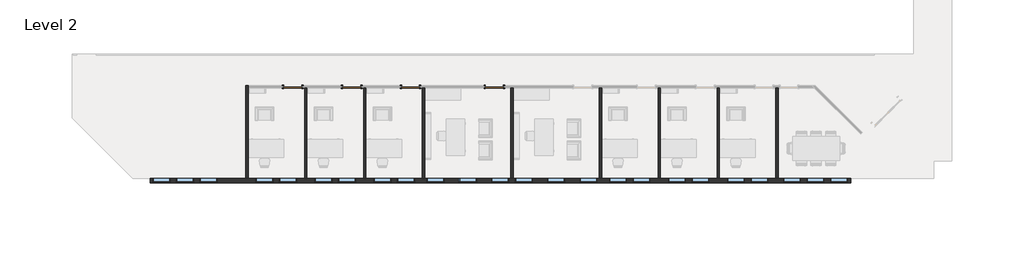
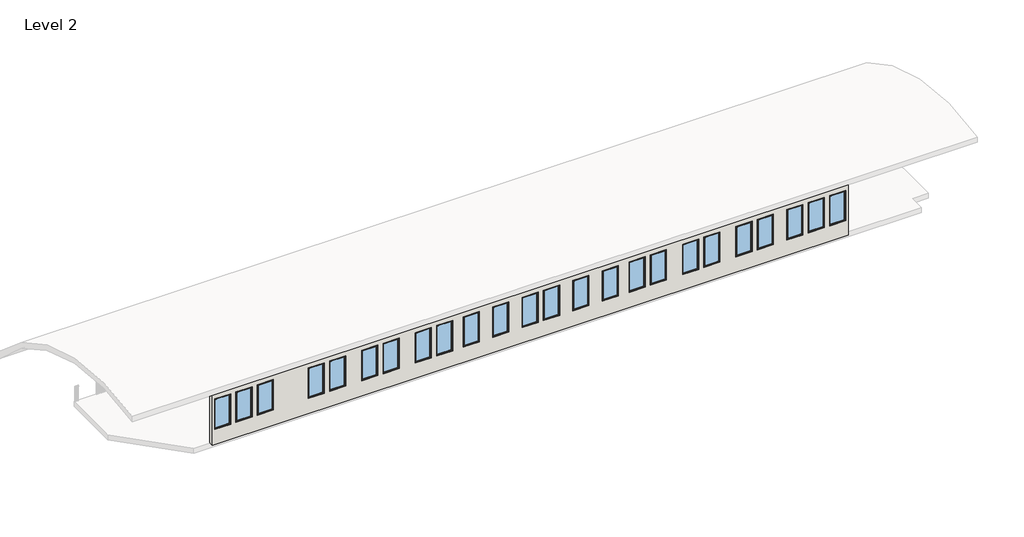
# One storey, part 1 of 2: 24 windows, 10 walls, 4 doors.
"""IFC4 building model written with IfcOpenShell, lengths in millimetres."""

from ifc_helpers import new_model, si_unit, frame, origin, place, context, project, spatial, polyline, outline, extrude, faceted_brep, transform, mapped, element, save
from components import door_eb9f8b14, window_01d578b7

model = new_model("IFC4")

# Units and contexts
model_context = context("Model", 3, world=origin())
ifc_project = project(units=[si_unit("LENGTHUNIT", "METRE", prefix="MILLI")], contexts=[model_context])

# Site, building, storey
site = spatial("IfcSite", under=ifc_project)
building = spatial("IfcBuilding", under=site)
storey = spatial("IfcBuildingStorey", under=building, Name="Level 2", Elevation=3657.6)

# Doors
placement = place(None, origin())
door_shape = door_eb9f8b14(model_context)
element("IfcDoor", 1, ObjectType="Single-Flush : 36\" x 84\"", at=placement, inside=storey, context=model_context, shape_type="MappedRepresentation", body=[
    mapped(door_shape, transform((-596.7228906, 2425.2975872, 3657.6), x_axis=(1.0, 0.0, 0.0), y_axis=(0.0, 1.0, 0.0), z_axis=(0.0, 0.0, 1.0))),
])
element("IfcDoor", 2, ObjectType="Single-Flush : 36\" x 84\"", at=placement, inside=storey, context=model_context, shape_type="MappedRepresentation", body=[
    mapped(door_shape, transform((2451.2771094, 2425.2975872, 3657.6), x_axis=(1.0, 0.0, 0.0), y_axis=(0.0, 1.0, 0.0), z_axis=(0.0, 0.0, 1.0))),
])
element("IfcDoor", 3, ObjectType="Single-Flush : 36\" x 84\"", at=placement, inside=storey, context=model_context, shape_type="MappedRepresentation", body=[
    mapped(door_shape, transform((9828.3896094, 2425.2975872, 3657.6), x_axis=(1.0, 0.0, 0.0), y_axis=(0.0, 1.0, 0.0), z_axis=(0.0, 0.0, 1.0))),
])
element("IfcDoor", 4, ObjectType="Single-Flush : 36\" x 84\"", at=placement, inside=storey, context=model_context, shape_type="MappedRepresentation", body=[
    mapped(door_shape, transform((5499.2771094, 2425.2975872, 3657.6), x_axis=(1.0, 0.0, 0.0), y_axis=(0.0, 1.0, 0.0), z_axis=(0.0, 0.0, 1.0))),
])

# Walls
element("IfcWall", 5, ObjectType="Exterior - EIFS on Mtl. Stud", at=placement, inside=storey, context=model_context, shape_type="Brep", body=[
    faceted_brep([(28268.7896094, -2330.8524128, 3657.6), (24520.7021094, -2330.8524128, 3657.6), (24396.8771094, -2330.8524128, 3657.6), (21472.7021094, -2330.8524128, 3657.6), (21348.8771094, -2330.8524128, 3657.6), (18424.7021094, -2330.8524128, 3657.6), (18300.8771094, -2330.8524128, 3657.6), (15376.7021094, -2330.8524128, 3657.6), (15252.8771094, -2330.8524128, 3657.6), (10804.7021094, -2330.8524128, 3657.6), (10680.8771094, -2330.8524128, 3657.6), (6232.7021094, -2330.8524128, 3657.6), (6108.8771094, -2330.8524128, 3657.6), (3184.7021094, -2330.8524128, 3657.6), (3060.8771094, -2330.8524128, 3657.6), (136.7021094, -2330.8524128, 3657.6), (12.8771094, -2330.8524128, 3657.6), (-2911.2978906, -2330.8524128, 3657.6), (-3035.1228906, -2330.8524128, 3657.6), (-7974.408315, -2330.8524128, 3657.6), (-7974.408315, -2330.8524128, 7315.2), (-3035.1228906, -2330.8524128, 7315.2), (-2911.2978906, -2330.8524128, 7315.2), (12.8771094, -2330.8524128, 7315.2), (136.7021094, -2330.8524128, 7315.2), (3060.8771094, -2330.8524128, 7315.2), (3184.7021094, -2330.8524128, 7315.2), (6108.8771094, -2330.8524128, 7315.2), (6232.7021094, -2330.8524128, 7315.2), (10680.8771094, -2330.8524128, 7315.2), (10804.7021094, -2330.8524128, 7315.2), (15252.8771094, -2330.8524128, 7315.2), (15376.7021094, -2330.8524128, 7315.2), (18300.8771094, -2330.8524128, 7315.2), (18424.7021094, -2330.8524128, 7315.2), (21348.8771094, -2330.8524128, 7315.2), (21472.7021094, -2330.8524128, 7315.2), (24396.8771094, -2330.8524128, 7315.2), (24520.7021094, -2330.8524128, 7315.2), (28268.7896094, -2330.8524128, 7315.2), (24763.5896094, -2330.8524128, 6400.8), (24763.5896094, -2330.8524128, 4572.0), (25677.9896094, -2330.8524128, 4572.0), (25677.9896094, -2330.8524128, 6400.8), (27201.9896094, -2330.8524128, 6400.8), (27201.9896094, -2330.8524128, 4572.0), (28116.3896094, -2330.8524128, 4572.0), (28116.3896094, -2330.8524128, 6400.8), (-7850.0103906, -2330.8524128, 6400.8), (-7850.0103906, -2330.8524128, 4572.0), (-6935.6103906, -2330.8524128, 4572.0), (-6935.6103906, -2330.8524128, 6400.8), (-6630.8103906, -2330.8524128, 6400.8), (-6630.8103906, -2330.8524128, 4572.0), (-5716.4103906, -2330.8524128, 4572.0), (-5716.4103906, -2330.8524128, 6400.8), (-5411.6103906, -2330.8524128, 6400.8), (-5411.6103906, -2330.8524128, 4572.0), (-4497.2103906, -2330.8524128, 4572.0), (-4497.2103906, -2330.8524128, 6400.8), (-2516.0103906, -2330.8524128, 6400.8), (-2516.0103906, -2330.8524128, 4572.0), (-1601.6103906, -2330.8524128, 4572.0), (-1601.6103906, -2330.8524128, 6400.8), (25982.7896094, -2330.8524128, 6400.8), (25982.7896094, -2330.8524128, 4572.0), (26897.1896094, -2330.8524128, 4572.0), (26897.1896094, -2330.8524128, 6400.8), (-1296.8103906, -2330.8524128, 6400.8), (-1296.8103906, -2330.8524128, 4572.0), (-382.4103906, -2330.8524128, 4572.0), (-382.4103906, -2330.8524128, 6400.8), (6323.1896094, -2330.8524128, 6400.8), (6323.1896094, -2330.8524128, 4572.0), (7237.5896094, -2330.8524128, 4572.0), (7237.5896094, -2330.8524128, 6400.8), (7999.5896094, -2330.8524128, 6400.8), (7999.5896094, -2330.8524128, 4572.0), (8913.9896094, -2330.8524128, 4572.0), (8913.9896094, -2330.8524128, 6400.8), (9675.9896094, -2330.8524128, 6400.8), (9675.9896094, -2330.8524128, 4572.0), (10590.3896094, -2330.8524128, 4572.0), (10590.3896094, -2330.8524128, 6400.8), (10895.1896094, -2330.8524128, 6400.8), (10895.1896094, -2330.8524128, 4572.0), (11809.5896094, -2330.8524128, 4572.0), (11809.5896094, -2330.8524128, 6400.8), (12571.5896094, -2330.8524128, 6400.8), (12571.5896094, -2330.8524128, 4572.0), (13485.9896094, -2330.8524128, 4572.0), (13485.9896094, -2330.8524128, 6400.8), (14247.9896094, -2330.8524128, 6400.8), (14247.9896094, -2330.8524128, 4572.0), (15162.3896094, -2330.8524128, 4572.0), (15162.3896094, -2330.8524128, 6400.8), (531.9896094, -2330.8524128, 6400.8), (531.9896094, -2330.8524128, 4572.0), (1446.3896094, -2330.8524128, 4572.0), (1446.3896094, -2330.8524128, 6400.8), (1751.1896094, -2330.8524128, 6400.8), (1751.1896094, -2330.8524128, 4572.0), (2665.5896094, -2330.8524128, 4572.0), (2665.5896094, -2330.8524128, 6400.8), (3579.9896094, -2330.8524128, 6400.8), (3579.9896094, -2330.8524128, 4572.0), (4494.3896094, -2330.8524128, 4572.0), (4494.3896094, -2330.8524128, 6400.8), (4799.1896094, -2330.8524128, 6400.8), (4799.1896094, -2330.8524128, 4572.0), (5713.5896094, -2330.8524128, 4572.0), (5713.5896094, -2330.8524128, 6400.8), (15771.9896094, -2330.8524128, 6400.8), (15771.9896094, -2330.8524128, 4572.0), (16686.3896094, -2330.8524128, 4572.0), (16686.3896094, -2330.8524128, 6400.8), (16991.1896094, -2330.8524128, 6400.8), (16991.1896094, -2330.8524128, 4572.0), (17905.5896094, -2330.8524128, 4572.0), (17905.5896094, -2330.8524128, 6400.8), (18819.9896094, -2330.8524128, 6400.8), (18819.9896094, -2330.8524128, 4572.0), (19734.3896094, -2330.8524128, 4572.0), (19734.3896094, -2330.8524128, 6400.8), (20039.1896094, -2330.8524128, 6400.8), (20039.1896094, -2330.8524128, 4572.0), (20953.5896094, -2330.8524128, 4572.0), (20953.5896094, -2330.8524128, 6400.8), (21867.9896094, -2330.8524128, 6400.8), (21867.9896094, -2330.8524128, 4572.0), (22782.3896094, -2330.8524128, 4572.0), (22782.3896094, -2330.8524128, 6400.8), (23087.1896094, -2330.8524128, 6400.8), (23087.1896094, -2330.8524128, 4572.0), (24001.5896094, -2330.8524128, 4572.0), (24001.5896094, -2330.8524128, 6400.8), (-7974.408315, -2572.1524128, 3657.6), (28268.7896094, -2572.1524128, 3657.6), (28268.7896094, -2572.1524128, 7315.2), (-7974.408315, -2572.1524128, 7315.2), (24763.5896094, -2572.1524128, 4572.0), (24763.5896094, -2572.1524128, 6400.8), (25677.9896094, -2572.1524128, 6400.8), (25677.9896094, -2572.1524128, 4572.0), (27201.9896094, -2572.1524128, 4572.0), (27201.9896094, -2572.1524128, 6400.8), (28116.3896094, -2572.1524128, 6400.8), (28116.3896094, -2572.1524128, 4572.0), (-7850.0103906, -2572.1524128, 4572.0), (-7850.0103906, -2572.1524128, 6400.8), (-6935.6103906, -2572.1524128, 6400.8), (-6935.6103906, -2572.1524128, 4572.0), (-6630.8103906, -2572.1524128, 4572.0), (-6630.8103906, -2572.1524128, 6400.8), (-5716.4103906, -2572.1524128, 6400.8), (-5716.4103906, -2572.1524128, 4572.0), (-5411.6103906, -2572.1524128, 4572.0), (-5411.6103906, -2572.1524128, 6400.8), (-4497.2103906, -2572.1524128, 6400.8), (-4497.2103906, -2572.1524128, 4572.0), (-2516.0103906, -2572.1524128, 4572.0), (-2516.0103906, -2572.1524128, 6400.8), (-1601.6103906, -2572.1524128, 6400.8), (-1601.6103906, -2572.1524128, 4572.0), (25982.7896094, -2572.1524128, 4572.0), (25982.7896094, -2572.1524128, 6400.8), (26897.1896094, -2572.1524128, 6400.8), (26897.1896094, -2572.1524128, 4572.0), (-1296.8103906, -2572.1524128, 4572.0), (-1296.8103906, -2572.1524128, 6400.8), (-382.4103906, -2572.1524128, 6400.8), (-382.4103906, -2572.1524128, 4572.0), (6323.1896094, -2572.1524128, 6400.8), (7237.5896094, -2572.1524128, 6400.8), (7237.5896094, -2572.1524128, 4572.0), (6323.1896094, -2572.1524128, 4572.0), (7999.5896094, -2572.1524128, 6400.8), (8913.9896094, -2572.1524128, 6400.8), (8913.9896094, -2572.1524128, 4572.0), (7999.5896094, -2572.1524128, 4572.0), (9675.9896094, -2572.1524128, 6400.8), (10590.3896094, -2572.1524128, 6400.8), (10590.3896094, -2572.1524128, 4572.0), (9675.9896094, -2572.1524128, 4572.0), (10895.1896094, -2572.1524128, 6400.8), (11809.5896094, -2572.1524128, 6400.8), (11809.5896094, -2572.1524128, 4572.0), (10895.1896094, -2572.1524128, 4572.0), (12571.5896094, -2572.1524128, 6400.8), (13485.9896094, -2572.1524128, 6400.8), (13485.9896094, -2572.1524128, 4572.0), (12571.5896094, -2572.1524128, 4572.0), (14247.9896094, -2572.1524128, 6400.8), (15162.3896094, -2572.1524128, 6400.8), (15162.3896094, -2572.1524128, 4572.0), (14247.9896094, -2572.1524128, 4572.0), (531.9896094, -2572.1524128, 6400.8), (1446.3896094, -2572.1524128, 6400.8), (1446.3896094, -2572.1524128, 4572.0), (531.9896094, -2572.1524128, 4572.0), (1751.1896094, -2572.1524128, 6400.8), (2665.5896094, -2572.1524128, 6400.8), (2665.5896094, -2572.1524128, 4572.0), (1751.1896094, -2572.1524128, 4572.0), (3579.9896094, -2572.1524128, 6400.8), (4494.3896094, -2572.1524128, 6400.8), (4494.3896094, -2572.1524128, 4572.0), (3579.9896094, -2572.1524128, 4572.0), (4799.1896094, -2572.1524128, 6400.8), (5713.5896094, -2572.1524128, 6400.8), (5713.5896094, -2572.1524128, 4572.0), (4799.1896094, -2572.1524128, 4572.0), (15771.9896094, -2572.1524128, 6400.8), (16686.3896094, -2572.1524128, 6400.8), (16686.3896094, -2572.1524128, 4572.0), (15771.9896094, -2572.1524128, 4572.0), (16991.1896094, -2572.1524128, 6400.8), (17905.5896094, -2572.1524128, 6400.8), (17905.5896094, -2572.1524128, 4572.0), (16991.1896094, -2572.1524128, 4572.0), (18819.9896094, -2572.1524128, 6400.8), (19734.3896094, -2572.1524128, 6400.8), (19734.3896094, -2572.1524128, 4572.0), (18819.9896094, -2572.1524128, 4572.0), (20039.1896094, -2572.1524128, 6400.8), (20953.5896094, -2572.1524128, 6400.8), (20953.5896094, -2572.1524128, 4572.0), (20039.1896094, -2572.1524128, 4572.0), (21867.9896094, -2572.1524128, 6400.8), (22782.3896094, -2572.1524128, 6400.8), (22782.3896094, -2572.1524128, 4572.0), (21867.9896094, -2572.1524128, 4572.0), (23087.1896094, -2572.1524128, 6400.8), (24001.5896094, -2572.1524128, 6400.8), (24001.5896094, -2572.1524128, 4572.0), (23087.1896094, -2572.1524128, 4572.0)], [[[0, 1, 2, 3, 4, 5, 6, 7, 8, 9, 10, 11, 12, 13, 14, 15, 16, 17, 18, 19, 20, 21, 22, 23, 24, 25, 26, 27, 28, 29, 30, 31, 32, 33, 34, 35, 36, 37, 38, 39], [40, 41, 42, 43], [44, 45, 46, 47], [48, 49, 50, 51], [52, 53, 54, 55], [56, 57, 58, 59], [60, 61, 62, 63], [64, 65, 66, 67], [68, 69, 70, 71], [72, 73, 74, 75], [76, 77, 78, 79], [80, 81, 82, 83], [84, 85, 86, 87], [88, 89, 90, 91], [92, 93, 94, 95], [96, 97, 98, 99], [100, 101, 102, 103], [104, 105, 106, 107], [108, 109, 110, 111], [112, 113, 114, 115], [116, 117, 118, 119], [120, 121, 122, 123], [124, 125, 126, 127], [128, 129, 130, 131], [132, 133, 134, 135]], [[136, 137, 138, 139], [140, 141, 142, 143], [144, 145, 146, 147], [148, 149, 150, 151], [152, 153, 154, 155], [156, 157, 158, 159], [160, 161, 162, 163], [164, 165, 166, 167], [168, 169, 170, 171], [172, 173, 174, 175], [176, 177, 178, 179], [180, 181, 182, 183], [184, 185, 186, 187], [188, 189, 190, 191], [192, 193, 194, 195], [196, 197, 198, 199], [200, 201, 202, 203], [204, 205, 206, 207], [208, 209, 210, 211], [212, 213, 214, 215], [216, 217, 218, 219], [220, 221, 222, 223], [224, 225, 226, 227], [228, 229, 230, 231], [232, 233, 234, 235]], [[19, 18, 17, 16, 15, 14, 13, 12, 11, 10, 9, 8, 7, 6, 5, 4, 3, 2, 1, 0, 137, 136]], [[20, 19, 136, 139]], [[39, 38, 37, 36, 35, 34, 33, 32, 31, 30, 29, 28, 27, 26, 25, 24, 23, 22, 21, 20, 139, 138]], [[137, 0, 39, 138]], [[41, 40, 141, 140]], [[42, 41, 140, 143]], [[43, 42, 143, 142]], [[40, 43, 142, 141]], [[45, 44, 145, 144]], [[46, 45, 144, 147]], [[47, 46, 147, 146]], [[44, 47, 146, 145]], [[49, 48, 149, 148]], [[50, 49, 148, 151]], [[51, 50, 151, 150]], [[48, 51, 150, 149]], [[53, 52, 153, 152]], [[54, 53, 152, 155]], [[55, 54, 155, 154]], [[52, 55, 154, 153]], [[57, 56, 157, 156]], [[58, 57, 156, 159]], [[59, 58, 159, 158]], [[56, 59, 158, 157]], [[61, 60, 161, 160]], [[62, 61, 160, 163]], [[63, 62, 163, 162]], [[60, 63, 162, 161]], [[65, 64, 165, 164]], [[66, 65, 164, 167]], [[67, 66, 167, 166]], [[64, 67, 166, 165]], [[68, 169, 168, 69]], [[69, 168, 171, 70]], [[70, 171, 170, 71]], [[169, 68, 71, 170]], [[73, 72, 172, 175]], [[74, 73, 175, 174]], [[75, 74, 174, 173]], [[72, 75, 173, 172]], [[77, 76, 176, 179]], [[78, 77, 179, 178]], [[79, 78, 178, 177]], [[76, 79, 177, 176]], [[81, 80, 180, 183]], [[82, 81, 183, 182]], [[83, 82, 182, 181]], [[80, 83, 181, 180]], [[85, 84, 184, 187]], [[86, 85, 187, 186]], [[87, 86, 186, 185]], [[84, 87, 185, 184]], [[89, 88, 188, 191]], [[90, 89, 191, 190]], [[91, 90, 190, 189]], [[88, 91, 189, 188]], [[93, 92, 192, 195]], [[94, 93, 195, 194]], [[95, 94, 194, 193]], [[92, 95, 193, 192]], [[97, 96, 196, 199]], [[98, 97, 199, 198]], [[99, 98, 198, 197]], [[96, 99, 197, 196]], [[101, 100, 200, 203]], [[102, 101, 203, 202]], [[103, 102, 202, 201]], [[100, 103, 201, 200]], [[105, 104, 204, 207]], [[106, 105, 207, 206]], [[107, 106, 206, 205]], [[104, 107, 205, 204]], [[109, 108, 208, 211]], [[110, 109, 211, 210]], [[111, 110, 210, 209]], [[108, 111, 209, 208]], [[113, 112, 212, 215]], [[114, 113, 215, 214]], [[115, 114, 214, 213]], [[112, 115, 213, 212]], [[117, 116, 216, 219]], [[118, 117, 219, 218]], [[119, 118, 218, 217]], [[116, 119, 217, 216]], [[121, 120, 220, 223]], [[122, 121, 223, 222]], [[123, 122, 222, 221]], [[120, 123, 221, 220]], [[125, 124, 224, 227]], [[126, 125, 227, 226]], [[127, 126, 226, 225]], [[124, 127, 225, 224]], [[129, 128, 228, 231]], [[130, 129, 231, 230]], [[131, 130, 230, 229]], [[128, 131, 229, 228]], [[133, 132, 232, 235]], [[134, 133, 235, 234]], [[135, 134, 234, 233]], [[132, 135, 233, 232]]]),
])
element("IfcWall", 6, ObjectType="Interior - 4 7/8\" Partition (1-hr)", at=placement, inside=storey, context=model_context, shape_type="SweptSolid", body=[
    extrude(outline(polyline([(24520.7021094, 2363.3850872), (24520.7021094, -2330.8524128), (24396.8771094, -2330.8524128), (24396.8771094, 2363.3850872), (24520.7021094, 2363.3850872)])), frame((0.0, 0.0, 3657.6), z_axis=(0.0, 0.0, 1.0), x_axis=(1.0, 0.0, 0.0)), (0.0, 0.0, 1.0), 3657.6),
])
element("IfcWall", 7, ObjectType="Interior - 4 7/8\" Partition (1-hr)", at=placement, inside=storey, context=model_context, shape_type="Brep", body=[
    faceted_brep([(-2911.2978906, -2330.8524128, 3657.6), (-2911.2978906, 2363.3850872, 3657.6), (-2911.2978906, 2487.2100872, 3657.6), (-2911.2978906, 2487.2100872, 7315.2), (-2911.2978906, 2363.3850872, 7315.2), (-2911.2978906, -2330.8524128, 7315.2), (-3035.1228906, -2330.8524128, 3657.6), (-3035.1228906, -2330.8524128, 7315.2), (-3035.1228906, 2487.2100872, 7315.2), (-3035.1228906, 2487.2100872, 3657.6)], [[[0, 1, 2, 3, 4, 5]], [[6, 7, 8, 9]], [[2, 1, 0, 6, 9]], [[5, 4, 3, 8, 7]], [[3, 2, 9, 8]], [[0, 5, 7, 6]]]),
])
element("IfcWall", 8, ObjectType="Interior - 4 7/8\" Partition (1-hr)", at=placement, inside=storey, context=model_context, shape_type="SweptSolid", body=[
    extrude(outline(polyline([(136.7021094, 2363.3850872), (136.7021094, -2330.8524128), (12.8771094, -2330.8524128), (12.8771094, 2363.3850872), (136.7021094, 2363.3850872)])), frame((0.0, 0.0, 3657.6), z_axis=(0.0, 0.0, 1.0), x_axis=(1.0, 0.0, 0.0)), (0.0, 0.0, 1.0), 3657.6),
])
element("IfcWall", 9, ObjectType="Interior - 4 7/8\" Partition (1-hr)", at=placement, inside=storey, context=model_context, shape_type="SweptSolid", body=[
    extrude(outline(polyline([(3184.7021094, 2363.3850872), (3184.7021094, -2330.8524128), (3060.8771094, -2330.8524128), (3060.8771094, 2363.3850872), (3184.7021094, 2363.3850872)])), frame((0.0, 0.0, 3657.6), z_axis=(0.0, 0.0, 1.0), x_axis=(1.0, 0.0, 0.0)), (0.0, 0.0, 1.0), 3657.6),
])
element("IfcWall", 10, ObjectType="Interior - 4 7/8\" Partition (1-hr)", at=placement, inside=storey, context=model_context, shape_type="SweptSolid", body=[
    extrude(outline(polyline([(18424.7021094, 2363.3850872), (18424.7021094, -2330.8524128), (18300.8771094, -2330.8524128), (18300.8771094, 2363.3850872), (18424.7021094, 2363.3850872)])), frame((0.0, 0.0, 3657.6), z_axis=(0.0, 0.0, 1.0), x_axis=(1.0, 0.0, 0.0)), (0.0, 0.0, 1.0), 3657.6),
])
element("IfcWall", 11, ObjectType="Interior - 4 7/8\" Partition (1-hr)", at=placement, inside=storey, context=model_context, shape_type="SweptSolid", body=[
    extrude(outline(polyline([(21472.7021094, 2363.3850872), (21472.7021094, -2330.8524128), (21348.8771094, -2330.8524128), (21348.8771094, 2363.3850872), (21472.7021094, 2363.3850872)])), frame((0.0, 0.0, 3657.6), z_axis=(0.0, 0.0, 1.0), x_axis=(1.0, 0.0, 0.0)), (0.0, 0.0, 1.0), 3657.6),
])
element("IfcWall", 12, ObjectType="Interior - 4 7/8\" Partition (1-hr)", at=placement, inside=storey, context=model_context, shape_type="SweptSolid", body=[
    extrude(outline(polyline([(10804.7021094, 2363.3850872), (10804.7021094, -2330.8524128), (10680.8771094, -2330.8524128), (10680.8771094, 2363.3850872), (10804.7021094, 2363.3850872)])), frame((0.0, 0.0, 3657.6), z_axis=(0.0, 0.0, 1.0), x_axis=(1.0, 0.0, 0.0)), (0.0, 0.0, 1.0), 3657.6),
])
element("IfcWall", 13, ObjectType="Interior - 4 7/8\" Partition (1-hr)", at=placement, inside=storey, context=model_context, shape_type="SweptSolid", body=[
    extrude(outline(polyline([(6232.7021094, 2363.3850872), (6232.7021094, -2330.8524128), (6108.8771094, -2330.8524128), (6108.8771094, 2363.3850872), (6232.7021094, 2363.3850872)])), frame((0.0, 0.0, 3657.6), z_axis=(0.0, 0.0, 1.0), x_axis=(1.0, 0.0, 0.0)), (0.0, 0.0, 1.0), 3657.6),
])
element("IfcWall", 14, ObjectType="Interior - 4 7/8\" Partition (1-hr)", at=placement, inside=storey, context=model_context, shape_type="SweptSolid", body=[
    extrude(outline(polyline([(15376.7021094, 2363.3850872), (15376.7021094, -2330.8524128), (15252.8771094, -2330.8524128), (15252.8771094, 2363.3850872), (15376.7021094, 2363.3850872)])), frame((0.0, 0.0, 3657.6), z_axis=(0.0, 0.0, 1.0), x_axis=(1.0, 0.0, 0.0)), (0.0, 0.0, 1.0), 3657.6),
])

# Windows
window_shape = window_01d578b7(model_context)
element("IfcWindow", 15, ObjectType="Fixed : 36\" x 72\"", at=placement, inside=storey, context=model_context, shape_type="MappedRepresentation", body=[
    mapped(window_shape, transform((25182.6896094, -2451.5024128, 3657.6), x_axis=(-1.0, 0.0, 0.0), y_axis=(0.0, -1.0, 0.0), z_axis=(0.0, 0.0, 1.0))),
])
element("IfcWindow", 16, ObjectType="Fixed : 36\" x 72\"", at=placement, inside=storey, context=model_context, shape_type="MappedRepresentation", body=[
    mapped(window_shape, transform((27621.0896094, -2451.5024128, 3657.6), x_axis=(-1.0, 0.0, 0.0), y_axis=(0.0, -1.0, 0.0), z_axis=(0.0, 0.0, 1.0))),
])
element("IfcWindow", 17, ObjectType="Fixed : 36\" x 72\"", at=placement, inside=storey, context=model_context, shape_type="MappedRepresentation", body=[
    mapped(window_shape, transform((-7430.9103906, -2451.5024128, 3657.6), x_axis=(-1.0, 0.0, 0.0), y_axis=(0.0, -1.0, 0.0), z_axis=(0.0, 0.0, 1.0))),
])
element("IfcWindow", 18, ObjectType="Fixed : 36\" x 72\"", at=placement, inside=storey, context=model_context, shape_type="MappedRepresentation", body=[
    mapped(window_shape, transform((-6211.7103906, -2451.5024128, 3657.6), x_axis=(-1.0, 0.0, 0.0), y_axis=(0.0, -1.0, 0.0), z_axis=(0.0, 0.0, 1.0))),
])
element("IfcWindow", 19, ObjectType="Fixed : 36\" x 72\"", at=placement, inside=storey, context=model_context, shape_type="MappedRepresentation", body=[
    mapped(window_shape, transform((-4992.5103906, -2451.5024128, 3657.6), x_axis=(-1.0, 0.0, 0.0), y_axis=(0.0, -1.0, 0.0), z_axis=(0.0, 0.0, 1.0))),
])
element("IfcWindow", 20, ObjectType="Fixed : 36\" x 72\"", at=placement, inside=storey, context=model_context, shape_type="MappedRepresentation", body=[
    mapped(window_shape, transform((-2096.9103906, -2451.5024128, 3657.6), x_axis=(-1.0, 0.0, 0.0), y_axis=(0.0, -1.0, 0.0), z_axis=(0.0, 0.0, 1.0))),
])
element("IfcWindow", 21, ObjectType="Fixed : 36\" x 72\"", at=placement, inside=storey, context=model_context, shape_type="MappedRepresentation", body=[
    mapped(window_shape, transform((26401.8896094, -2451.5024128, 3657.6), x_axis=(-1.0, 0.0, 0.0), y_axis=(0.0, -1.0, 0.0), z_axis=(0.0, 0.0, 1.0))),
])
element("IfcWindow", 22, ObjectType="Fixed : 36\" x 72\"", at=placement, inside=storey, context=model_context, shape_type="MappedRepresentation", body=[
    mapped(window_shape, transform((-877.7103906, -2451.5024128, 3657.6), x_axis=(-1.0, 0.0, 0.0), y_axis=(0.0, -1.0, 0.0), z_axis=(0.0, 0.0, 1.0))),
])
element("IfcWindow", 23, ObjectType="Fixed : 36\" x 72\"", at=placement, inside=storey, context=model_context, shape_type="MappedRepresentation", body=[
    mapped(window_shape, transform((951.0896094, -2451.5024128, 3657.6), x_axis=(-1.0, 0.0, 0.0), y_axis=(0.0, -1.0, 0.0), z_axis=(0.0, 0.0, 1.0))),
])
element("IfcWindow", 24, ObjectType="Fixed : 36\" x 72\"", at=placement, inside=storey, context=model_context, shape_type="MappedRepresentation", body=[
    mapped(window_shape, transform((2170.2896094, -2451.5024128, 3657.6), x_axis=(-1.0, 0.0, 0.0), y_axis=(0.0, -1.0, 0.0), z_axis=(0.0, 0.0, 1.0))),
])
element("IfcWindow", 25, ObjectType="Fixed : 36\" x 72\"", at=placement, inside=storey, context=model_context, shape_type="MappedRepresentation", body=[
    mapped(window_shape, transform((16191.0896094, -2451.5024128, 3657.6), x_axis=(-1.0, 0.0, 0.0), y_axis=(0.0, -1.0, 0.0), z_axis=(0.0, 0.0, 1.0))),
])
element("IfcWindow", 26, ObjectType="Fixed : 36\" x 72\"", at=placement, inside=storey, context=model_context, shape_type="MappedRepresentation", body=[
    mapped(window_shape, transform((17410.2896094, -2451.5024128, 3657.6), x_axis=(-1.0, 0.0, 0.0), y_axis=(0.0, -1.0, 0.0), z_axis=(0.0, 0.0, 1.0))),
])
element("IfcWindow", 27, ObjectType="Fixed : 36\" x 72\"", at=placement, inside=storey, context=model_context, shape_type="MappedRepresentation", body=[
    mapped(window_shape, transform((19239.0896094, -2451.5024128, 3657.6), x_axis=(-1.0, 0.0, 0.0), y_axis=(0.0, -1.0, 0.0), z_axis=(0.0, 0.0, 1.0))),
])
element("IfcWindow", 28, ObjectType="Fixed : 36\" x 72\"", at=placement, inside=storey, context=model_context, shape_type="MappedRepresentation", body=[
    mapped(window_shape, transform((20458.2896094, -2451.5024128, 3657.6), x_axis=(-1.0, 0.0, 0.0), y_axis=(0.0, -1.0, 0.0), z_axis=(0.0, 0.0, 1.0))),
])
element("IfcWindow", 29, ObjectType="Fixed : 36\" x 72\"", at=placement, inside=storey, context=model_context, shape_type="MappedRepresentation", body=[
    mapped(window_shape, transform((22287.0896094, -2451.5024128, 3657.6), x_axis=(-1.0, 0.0, 0.0), y_axis=(0.0, -1.0, 0.0), z_axis=(0.0, 0.0, 1.0))),
])
element("IfcWindow", 30, ObjectType="Fixed : 36\" x 72\"", at=placement, inside=storey, context=model_context, shape_type="MappedRepresentation", body=[
    mapped(window_shape, transform((23506.2896094, -2451.5024128, 3657.6), x_axis=(-1.0, 0.0, 0.0), y_axis=(0.0, -1.0, 0.0), z_axis=(0.0, 0.0, 1.0))),
])
element("IfcWindow", 31, ObjectType="Fixed : 36\" x 72\"", at=placement, inside=storey, context=model_context, shape_type="MappedRepresentation", body=[
    mapped(window_shape, transform((6742.2896094, -2451.5024128, 3657.6), x_axis=(-1.0, 0.0, 0.0), y_axis=(0.0, -1.0, 0.0), z_axis=(0.0, 0.0, 1.0))),
])
element("IfcWindow", 32, ObjectType="Fixed : 36\" x 72\"", at=placement, inside=storey, context=model_context, shape_type="MappedRepresentation", body=[
    mapped(window_shape, transform((8418.6896094, -2451.5024128, 3657.6), x_axis=(-1.0, 0.0, 0.0), y_axis=(0.0, -1.0, 0.0), z_axis=(0.0, 0.0, 1.0))),
])
element("IfcWindow", 33, ObjectType="Fixed : 36\" x 72\"", at=placement, inside=storey, context=model_context, shape_type="MappedRepresentation", body=[
    mapped(window_shape, transform((10095.0896094, -2451.5024128, 3657.6), x_axis=(-1.0, 0.0, 0.0), y_axis=(0.0, -1.0, 0.0), z_axis=(0.0, 0.0, 1.0))),
])
element("IfcWindow", 34, ObjectType="Fixed : 36\" x 72\"", at=placement, inside=storey, context=model_context, shape_type="MappedRepresentation", body=[
    mapped(window_shape, transform((3999.0896094, -2451.5024128, 3657.6), x_axis=(-1.0, 0.0, 0.0), y_axis=(0.0, -1.0, 0.0), z_axis=(0.0, 0.0, 1.0))),
])
element("IfcWindow", 35, ObjectType="Fixed : 36\" x 72\"", at=placement, inside=storey, context=model_context, shape_type="MappedRepresentation", body=[
    mapped(window_shape, transform((5218.2896094, -2451.5024128, 3657.6), x_axis=(-1.0, 0.0, 0.0), y_axis=(0.0, -1.0, 0.0), z_axis=(0.0, 0.0, 1.0))),
])
element("IfcWindow", 36, ObjectType="Fixed : 36\" x 72\"", at=placement, inside=storey, context=model_context, shape_type="MappedRepresentation", body=[
    mapped(window_shape, transform((11314.2896094, -2451.5024128, 3657.6), x_axis=(-1.0, 0.0, 0.0), y_axis=(0.0, -1.0, 0.0), z_axis=(0.0, 0.0, 1.0))),
])
element("IfcWindow", 37, ObjectType="Fixed : 36\" x 72\"", at=placement, inside=storey, context=model_context, shape_type="MappedRepresentation", body=[
    mapped(window_shape, transform((12990.6896094, -2451.5024128, 3657.6), x_axis=(-1.0, 0.0, 0.0), y_axis=(0.0, -1.0, 0.0), z_axis=(0.0, 0.0, 1.0))),
])
element("IfcWindow", 38, ObjectType="Fixed : 36\" x 72\"", at=placement, inside=storey, context=model_context, shape_type="MappedRepresentation", body=[
    mapped(window_shape, transform((14667.0896094, -2451.5024128, 3657.6), x_axis=(-1.0, 0.0, 0.0), y_axis=(0.0, -1.0, 0.0), z_axis=(0.0, 0.0, 1.0))),
])

save(model, "model.ifc")
